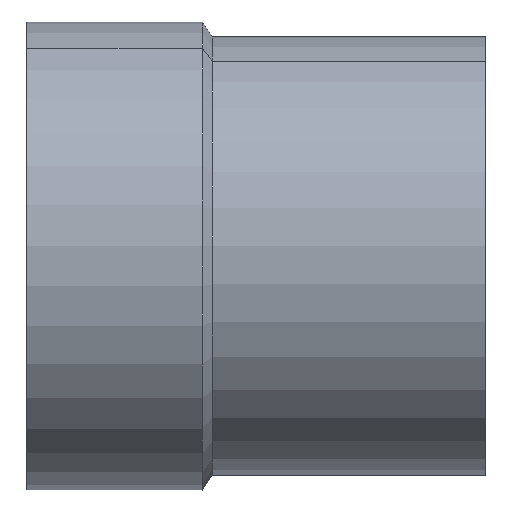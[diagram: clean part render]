
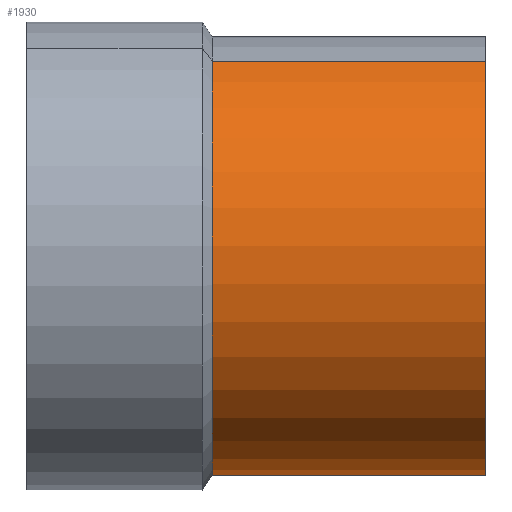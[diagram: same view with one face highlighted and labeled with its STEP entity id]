
A CAD part, front view. The second image highlights one B-rep face of the part: STEP entity #1930.
In plain terms, the highlighted cylindrical face has radius 11.25 mm (diameter 22.5 mm), a partial arc.
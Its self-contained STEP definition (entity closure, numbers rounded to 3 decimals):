
#480=CARTESIAN_POINT('',(54.743,-0.278,0.));
#490=DIRECTION('',(1.,0.,0.));
#500=DIRECTION('',(0.,1.,0.));
#510=AXIS2_PLACEMENT_3D('',#480,#490,#500);
#520=CIRCLE('',#510,11.25);
#530=CARTESIAN_POINT('',(54.743,10.972,0.));
#540=VERTEX_POINT('',#530);
#550=CARTESIAN_POINT('',(54.743,-11.528,
0.));
#560=VERTEX_POINT('',#550);
#570=EDGE_CURVE('',#540,#560,#520,.T.);
#740=CARTESIAN_POINT('',(47.943,-11.528,
0.));
#750=DIRECTION('',(-1.,0.,0.));
#760=VECTOR('',#750,1.);
#770=LINE('',#740,#760);
#780=CARTESIAN_POINT('',(40.743,-11.528,
0.));
#790=VERTEX_POINT('',#780);
#800=EDGE_CURVE('',#560,#790,#770,.T.);
#830=CARTESIAN_POINT('',(47.943,10.972,0.));
#840=DIRECTION('',(-1.,0.,0.));
#850=VECTOR('',#840,1.);
#860=LINE('',#830,#850);
#870=CARTESIAN_POINT('',(40.743,10.972,0.));
#880=VERTEX_POINT('',#870);
#890=EDGE_CURVE('',#540,#880,#860,.T.);
#910=CARTESIAN_POINT('',(40.743,-0.278,0.));
#920=DIRECTION('',(1.,0.,0.));
#930=DIRECTION('',(0.,1.,0.));
#940=AXIS2_PLACEMENT_3D('',#910,#920,#930);
#950=CIRCLE('',#940,11.25);
#1810=CARTESIAN_POINT('',(47.943,-0.278,0.));
#1820=DIRECTION('',(-1.,0.,0.));
#1830=DIRECTION('',(0.,1.,0.));
#1840=AXIS2_PLACEMENT_3D('',#1810,#1820,#1830);
#1850=CYLINDRICAL_SURFACE('',#1840,11.25);
#1860=ORIENTED_EDGE('',*,*,#570,.F.);
#1870=ORIENTED_EDGE('',*,*,#800,.F.);
#1880=EDGE_CURVE('',#880,#790,#950,.T.);
#1890=ORIENTED_EDGE('',*,*,#1880,.T.);
#1900=ORIENTED_EDGE('',*,*,#890,.T.);
#1910=EDGE_LOOP('',(#1900,#1890,#1870,#1860));
#1920=FACE_OUTER_BOUND('',#1910,.T.);
#1930=ADVANCED_FACE('',(#1920),#1850,.T.);
